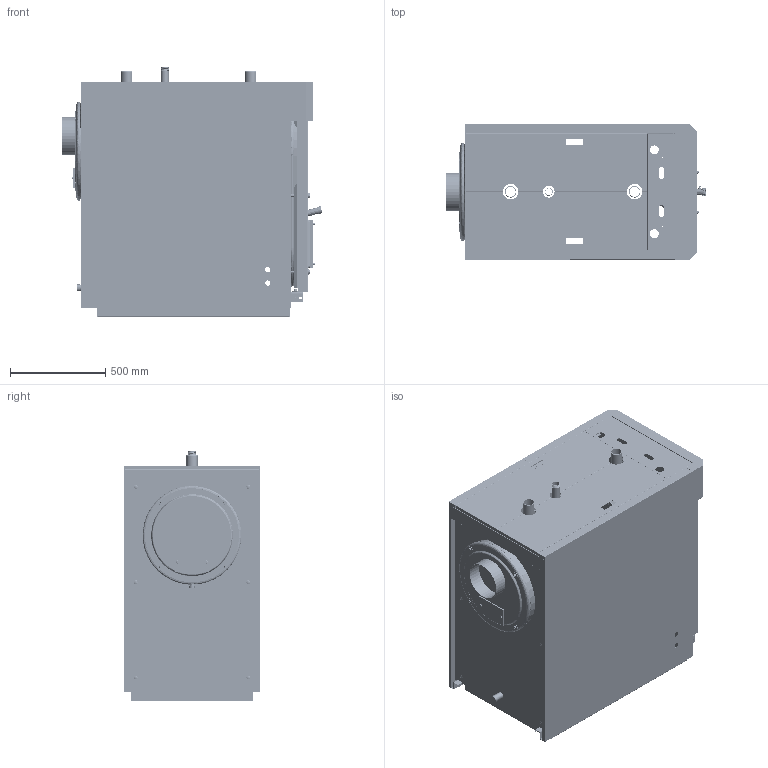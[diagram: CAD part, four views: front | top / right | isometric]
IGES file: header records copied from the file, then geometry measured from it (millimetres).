
Start section: START RECORD GO HERE.
Global section: file name: 20033204 +Pannellatura x 3D.igs; native system: DASSAULT SYSTEMES CATIA V5 R20 - www.3ds.com; preprocessor: CATIA Version 5 Release 20 SP 6 ; author: Riello S.p.A.; organization: RIELLO-IT; date: 20170612.142758; units: millimetre
Bounding box: 1366.07 x 712 x 1305 mm (x, y, z)
Surface area: 19575541.8 mm2 (no closed solid volume)
Topology: 0 solids, 0 shells, 6285 faces, 30348 edges, 30303 vertices
Faces by surface type: plane 3609, revolution 2461, bspline 215
